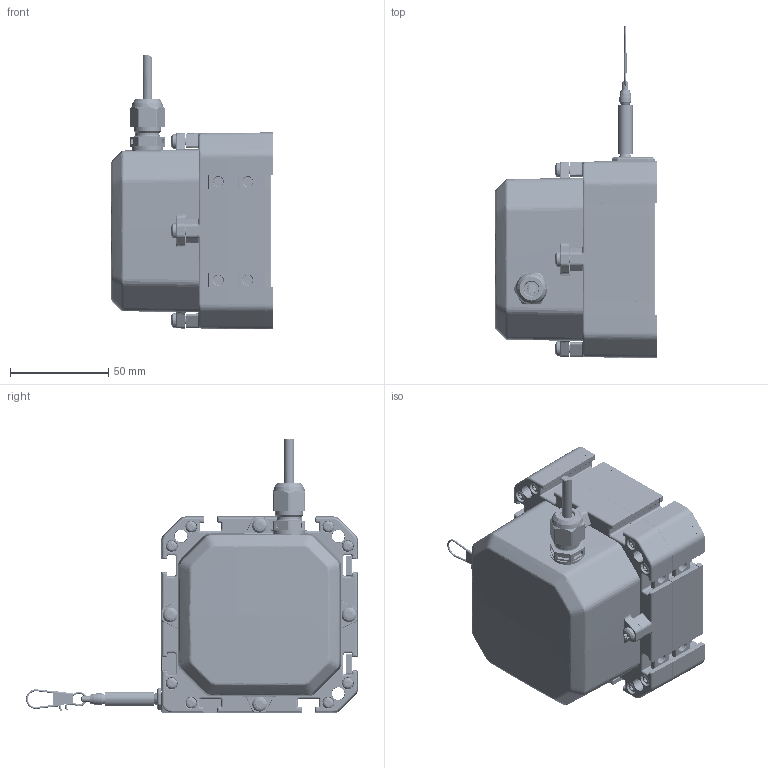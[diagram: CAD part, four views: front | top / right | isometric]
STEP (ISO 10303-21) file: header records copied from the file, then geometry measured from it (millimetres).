
FILE_DESCRIPTION((''),'2;1');
FILE_NAME('WPS-2500-K100-CR-P_SW0002','2020-10-13T08:56:10',('15000411'),(''),'CREO PARAMETRIC BY PTC INC, 2019224','CREO PARAMETRIC BY PTC INC, 2019224','');
FILE_SCHEMA(('AP242_MANAGED_MODEL_BASED_3D_ENGINEERING_MIM_LF { 1 0 10303 442 1 1 4 }'));
Length unit declared in the file: millimetre
Products named in the file (1): WPS-2500-K100-CR-P_SW0002
Bounding box: 82.7 x 168.72 x 139.57 mm (x, y, z)
Volume: 152326.9 mm3; surface area: 121355.2 mm2
Topology: 3 solids, 3 shells, 4955 faces, 11817 edges, 6962 vertices
Faces by surface type: cylinder 1620, plane 1041, bspline 855, torus 800, cone 465, sphere 173, extrusion 1
Entity records: 251929 total; most frequent: CARTESIAN_POINT 86884, ORIENTED_EDGE 23622, DIRECTION 22983, EDGE_CURVE 11811, AXIS2_PLACEMENT_3D 9486, FILL_AREA_STYLE_COLOUR 8873, FILL_AREA_STYLE 8873, SURFACE_STYLE_FILL_AREA 8873
